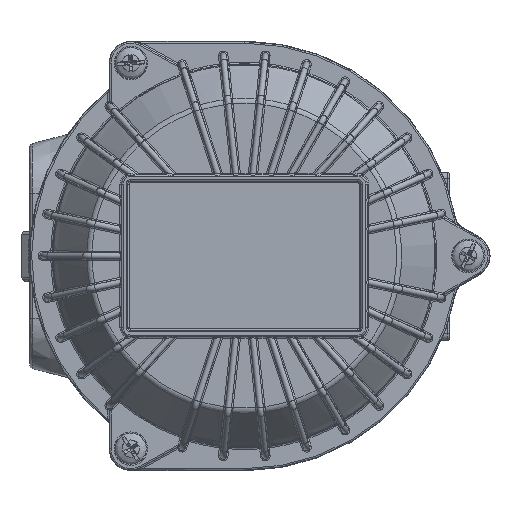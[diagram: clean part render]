
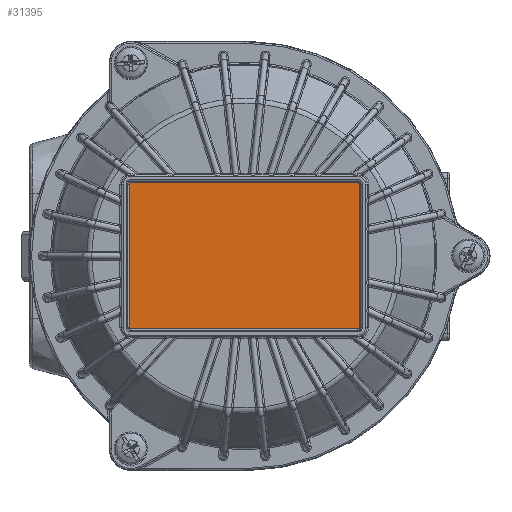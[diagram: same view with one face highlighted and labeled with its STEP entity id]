
A CAD part, top view. The second image highlights one B-rep face of the part: STEP entity #31395.
In plain terms, the highlighted planar face has unit normal (0, 0, 1).
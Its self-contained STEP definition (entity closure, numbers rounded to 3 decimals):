
#4864=PLANE('',#34377);
#6915=FACE_OUTER_BOUND('',#8899,.T.);
#8899=EDGE_LOOP('',(#27694,#27695,#27696,#27697,#27698,#27699,#27700,#27701));
#10261=LINE('',#75566,#11361);
#10263=LINE('',#75586,#11363);
#10265=LINE('',#75606,#11365);
#10267=LINE('',#75623,#11367);
#11361=VECTOR('',#41126,10.);
#11363=VECTOR('',#41138,10.);
#11365=VECTOR('',#41150,10.);
#11367=VECTOR('',#41160,10.);
#13036=CIRCLE('',#34352,0.5);
#13042=CIRCLE('',#34359,0.5);
#13046=CIRCLE('',#34364,0.5);
#13050=CIRCLE('',#34369,0.5);
#15728=VERTEX_POINT('',#75554);
#15729=VERTEX_POINT('',#75556);
#15731=VERTEX_POINT('',#75562);
#15733=VERTEX_POINT('',#75576);
#15735=VERTEX_POINT('',#75582);
#15737=VERTEX_POINT('',#75596);
#15739=VERTEX_POINT('',#75602);
#15741=VERTEX_POINT('',#75616);
#19930=EDGE_CURVE('',#15728,#15729,#13036,.T.);
#19935=EDGE_CURVE('',#15729,#15731,#10261,.T.);
#19938=EDGE_CURVE('',#15731,#15733,#13042,.T.);
#19941=EDGE_CURVE('',#15733,#15735,#10263,.T.);
#19944=EDGE_CURVE('',#15735,#15737,#13046,.T.);
#19947=EDGE_CURVE('',#15737,#15739,#10265,.T.);
#19950=EDGE_CURVE('',#15739,#15741,#13050,.T.);
#19952=EDGE_CURVE('',#15741,#15728,#10267,.T.);
#27694=ORIENTED_EDGE('',*,*,#19930,.F.);
#27695=ORIENTED_EDGE('',*,*,#19952,.F.);
#27696=ORIENTED_EDGE('',*,*,#19950,.F.);
#27697=ORIENTED_EDGE('',*,*,#19947,.F.);
#27698=ORIENTED_EDGE('',*,*,#19944,.F.);
#27699=ORIENTED_EDGE('',*,*,#19941,.F.);
#27700=ORIENTED_EDGE('',*,*,#19938,.F.);
#27701=ORIENTED_EDGE('',*,*,#19935,.F.);
#31395=ADVANCED_FACE('',(#6915),#4864,.T.);
#34352=AXIS2_PLACEMENT_3D('',#75557,#41115,#41116);
#34359=AXIS2_PLACEMENT_3D('',#75580,#41131,#41132);
#34364=AXIS2_PLACEMENT_3D('',#75600,#41143,#41144);
#34369=AXIS2_PLACEMENT_3D('',#75620,#41155,#41156);
#34377=AXIS2_PLACEMENT_3D('',#75642,#41180,#41181);
#41115=DIRECTION('center_axis',(0.,0.,
-1.));
#41116=DIRECTION('ref_axis',(0.707,0.707,0.));
#41126=DIRECTION('',(0.,-1.,0.));
#41131=DIRECTION('center_axis',(0.,0.,
-1.));
#41132=DIRECTION('ref_axis',(0.707,-0.707,0.));
#41138=DIRECTION('',(-1.,0.,0.));
#41143=DIRECTION('center_axis',(0.,0.,
-1.));
#41144=DIRECTION('ref_axis',(-0.707,-0.707,0.));
#41150=DIRECTION('',(0.,1.,0.));
#41155=DIRECTION('center_axis',(0.,0.,
-1.));
#41156=DIRECTION('ref_axis',(-0.707,0.707,0.));
#41160=DIRECTION('',(1.,0.,0.));
#41180=DIRECTION('center_axis',(0.,0.,
1.));
#41181=DIRECTION('ref_axis',(1.,0.,0.));
#75554=CARTESIAN_POINT('',(36.5,23.5,25.5));
#75556=CARTESIAN_POINT('',(37.,23.,25.5));
#75557=CARTESIAN_POINT('Origin',(36.5,23.,25.5));
#75562=CARTESIAN_POINT('',(37.,-23.,25.5));
#75566=CARTESIAN_POINT('',(37.,-11.5,25.5));
#75576=CARTESIAN_POINT('',(36.5,-23.5,25.5));
#75580=CARTESIAN_POINT('Origin',(36.5,-23.,25.5));
#75582=CARTESIAN_POINT('',(-36.5,-23.5,25.5));
#75586=CARTESIAN_POINT('',(-18.25,-23.5,25.5));
#75596=CARTESIAN_POINT('',(-37.,-23.,25.5));
#75600=CARTESIAN_POINT('Origin',(-36.5,-23.,25.5));
#75602=CARTESIAN_POINT('',(-37.,23.,25.5));
#75606=CARTESIAN_POINT('',(-37.,11.5,25.5));
#75616=CARTESIAN_POINT('',(-36.5,23.5,25.5));
#75620=CARTESIAN_POINT('Origin',(-36.5,23.,25.5));
#75623=CARTESIAN_POINT('',(18.25,23.5,25.5));
#75642=CARTESIAN_POINT('Origin',(0.,0.,
25.5));
